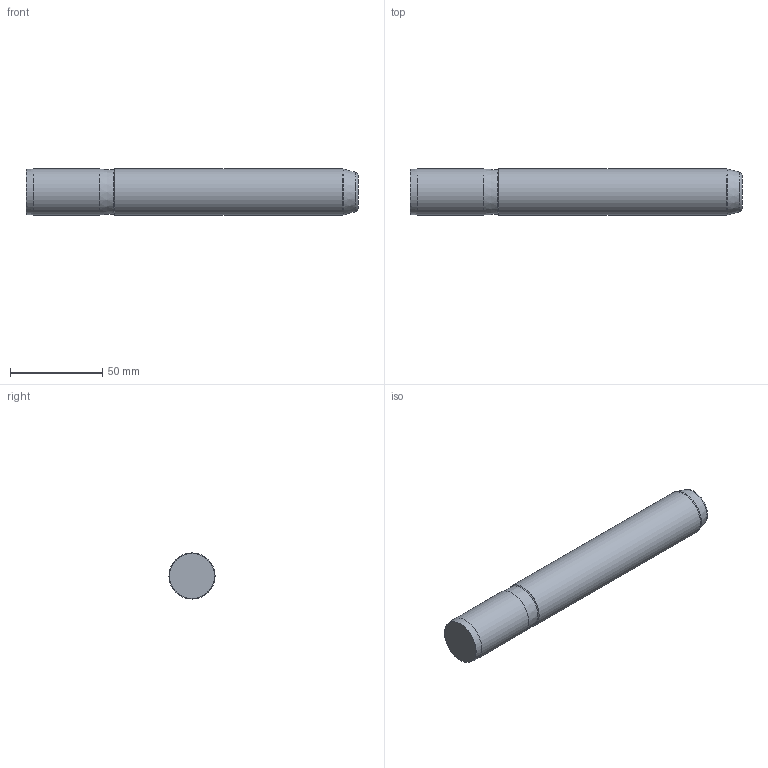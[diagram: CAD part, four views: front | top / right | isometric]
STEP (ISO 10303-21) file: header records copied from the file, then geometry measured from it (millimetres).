
FILE_DESCRIPTION(/* description */ ('Impex Ready, www.impex-ready.pl'),/* implementation_level */ '2;1');
FILE_NAME(/* name */ 'C:\Users\VIKKY\Nextcloud\SM\projekt 10 - części na stronę internetową\Pliki_3D_new\264 Słup C9\264_C9_STEP\C925180.ipt.step',/* time_stamp */ '2022-01-18T09:49:25+01:00',/* author */ ('SM'),/* organization */ (''),/* preprocessor_version */ 'ST-DEVELOPER v18.1',/* originating_system */ 'Autodesk Inventor 2021',/* authorisation */ '');
FILE_SCHEMA (('AUTOMOTIVE_DESIGN { 1 0 10303 214 3 1 1 }'));
Length unit declared in the file: millimetre
Products named in the file (1): C925180
Bounding box: 180 x 25 x 25 mm (x, y, z)
Volume: 87469.3 mm3; surface area: 14881.5 mm2
Topology: 1 solids, 1 shells, 11 faces, 22 edges, 14 vertices
Faces by surface type: cone 4, plane 3, cylinder 2, torus 2
Full cylindrical faces by diameter (mm): 25 x2
Entity records: 375 total; most frequent: DIRECTION 62, CARTESIAN_POINT 48, ORIENTED_EDGE 44, AXIS2_PLACEMENT_3D 28, EDGE_CURVE 22, CIRCLE 16, VERTEX_POINT 14, EDGE_LOOP 12
